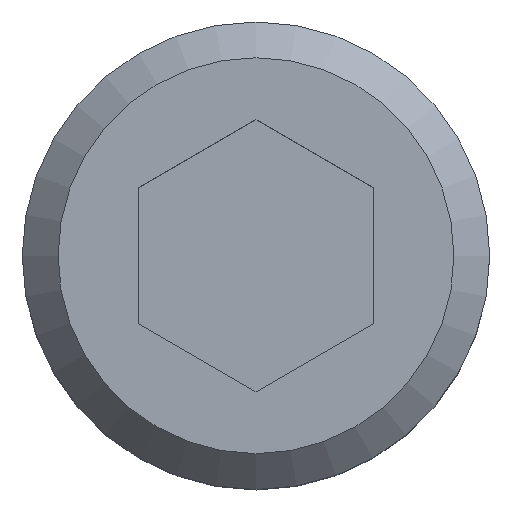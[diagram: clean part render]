
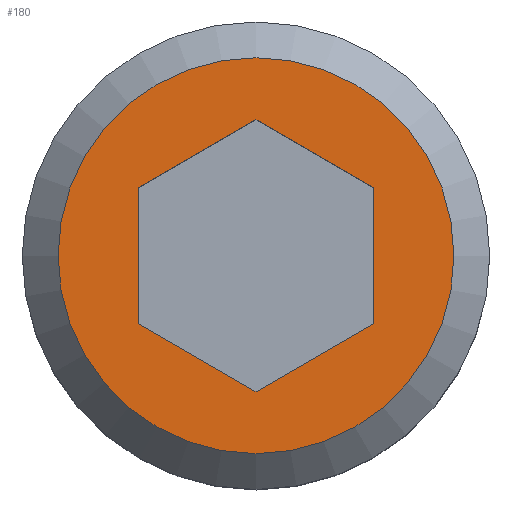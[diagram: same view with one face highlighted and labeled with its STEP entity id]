
A CAD part, top view. The second image highlights one B-rep face of the part: STEP entity #180.
In plain terms, the highlighted planar face has unit normal (0, 0, 1).
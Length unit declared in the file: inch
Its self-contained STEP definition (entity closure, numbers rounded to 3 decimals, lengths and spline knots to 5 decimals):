
#79=CARTESIAN_POINT('',(0.63,0.,0.994));
#80=VERTEX_POINT('',#79);
#81=CARTESIAN_POINT('',(0.0,0.0,0.994));
#82=DIRECTION('',(0.0,0.0,-1.0));
#83=DIRECTION('',(-1.0,0.0,0.0));
#84=AXIS2_PLACEMENT_3D('',#81,#82,#83);
#85=CIRCLE('',#84,0.63);
#86=EDGE_CURVE('',#80,#80,#85,.T.);
#122=CARTESIAN_POINT('',(0.0,0.0,0.994));
#123=DIRECTION('',(0.0,0.0,-1.0));
#124=DIRECTION('',(-1.0,0.0,0.0));
#125=AXIS2_PLACEMENT_3D('',#122,#123,#124);
#126=PLANE('',#125);
#127=ORIENTED_EDGE('',*,*,#86,.F.);
#128=EDGE_LOOP('',(#127));
#129=FACE_OUTER_BOUND('',#128,.T.);
#130=CARTESIAN_POINT('',(-0.375,-0.21651,0.994));
#131=VERTEX_POINT('',#130);
#132=CARTESIAN_POINT('',(-0.375,0.21651,0.994));
#133=VERTEX_POINT('',#132);
#134=CARTESIAN_POINT('',(-0.375,-0.21651,0.994));
#135=DIRECTION('',(0.0,1.0,0.0));
#136=VECTOR('',#135,0.43301);
#137=LINE('',#134,#136);
#138=EDGE_CURVE('',#131,#133,#137,.T.);
#139=ORIENTED_EDGE('',*,*,#138,.T.);
#140=CARTESIAN_POINT('',(0.,0.43301,0.994));
#141=VERTEX_POINT('',#140);
#142=CARTESIAN_POINT('',(-0.375,0.21651,0.994));
#143=DIRECTION('',(0.866,0.5,0.0));
#144=VECTOR('',#143,0.43301);
#145=LINE('',#142,#144);
#146=EDGE_CURVE('',#133,#141,#145,.T.);
#147=ORIENTED_EDGE('',*,*,#146,.T.);
#148=CARTESIAN_POINT('',(0.375,0.21651,0.994));
#149=VERTEX_POINT('',#148);
#150=CARTESIAN_POINT('',(0.,0.43301,0.994));
#151=DIRECTION('',(0.866,-0.5,0.0));
#152=VECTOR('',#151,0.43301);
#153=LINE('',#150,#152);
#154=EDGE_CURVE('',#141,#149,#153,.T.);
#155=ORIENTED_EDGE('',*,*,#154,.T.);
#156=CARTESIAN_POINT('',(0.375,-0.21651,0.994));
#157=VERTEX_POINT('',#156);
#158=CARTESIAN_POINT('',(0.375,0.21651,0.994));
#159=DIRECTION('',(0.0,-1.0,0.0));
#160=VECTOR('',#159,0.43301);
#161=LINE('',#158,#160);
#162=EDGE_CURVE('',#149,#157,#161,.T.);
#163=ORIENTED_EDGE('',*,*,#162,.T.);
#164=CARTESIAN_POINT('',(0.,-0.43301,0.994));
#165=VERTEX_POINT('',#164);
#166=CARTESIAN_POINT('',(0.375,-0.21651,0.994));
#167=DIRECTION('',(-0.866,-0.5,0.0));
#168=VECTOR('',#167,0.43301);
#169=LINE('',#166,#168);
#170=EDGE_CURVE('',#157,#165,#169,.T.);
#171=ORIENTED_EDGE('',*,*,#170,.T.);
#172=CARTESIAN_POINT('',(0.,-0.43301,0.994));
#173=DIRECTION('',(-0.866,0.5,0.0));
#174=VECTOR('',#173,0.43301);
#175=LINE('',#172,#174);
#176=EDGE_CURVE('',#165,#131,#175,.T.);
#177=ORIENTED_EDGE('',*,*,#176,.T.);
#178=EDGE_LOOP('',(#139,#147,#155,#163,#171,#177));
#179=FACE_BOUND('',#178,.T.);
#180=ADVANCED_FACE('',(#129,#179),#126,.F.);
